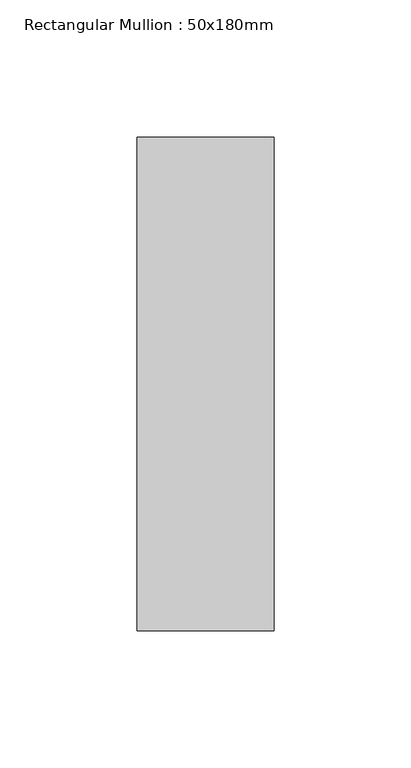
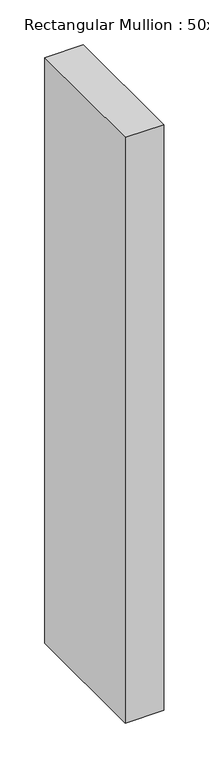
"""IFC4 building model written with IfcOpenShell, lengths in millimetres: member geometry, Rectangular Mullion : 50x180mm."""

from ifc_helpers import new_model, si_unit, frame, origin, place, context, project, spatial, polyline, outline, extrude, source, transform, mapped, element, save


def rectangular_mullion_50x180mm_bfae1b57(model_context):
    return source(origin(), model_context, "Body", "SweptSolid", [
        extrude(outline(polyline([(25.0, 90.0), (25.0, -90.0), (-25.0, -90.0), (-25.0, 90.0), (25.0, 90.0)])), frame((0.0, 0.0, -800.0), z_axis=(0.0, 0.0, 1.0), x_axis=(1.0, 0.0, 0.0)), (0.0, 0.0, 1.0), 800.0),
    ])


if __name__ == "__main__":
    model = new_model("IFC4")
    model_context = context("Model", 3, world=origin())
    ifc_project = project(units=[si_unit("LENGTHUNIT", "METRE", prefix="MILLI")], contexts=[model_context])
    site = spatial("IfcSite", under=ifc_project)
    building = spatial("IfcBuilding", under=site)
    placement = place(None, origin())
    rectangular_mullion_50x180mm_shape = rectangular_mullion_50x180mm_bfae1b57(model_context)
    element("IfcMember", 1, ObjectType="Rectangular Mullion : 50x180mm", at=placement, inside=building, context=model_context, shape_type="MappedRepresentation", body=[
        mapped(rectangular_mullion_50x180mm_shape, transform((0.0, 0.0, 0.0), x_axis=(1.0, 0.0, 0.0), y_axis=(0.0, 1.0, 0.0), z_axis=(0.0, 0.0, 1.0))),
    ])
    save(model, "model.ifc")
